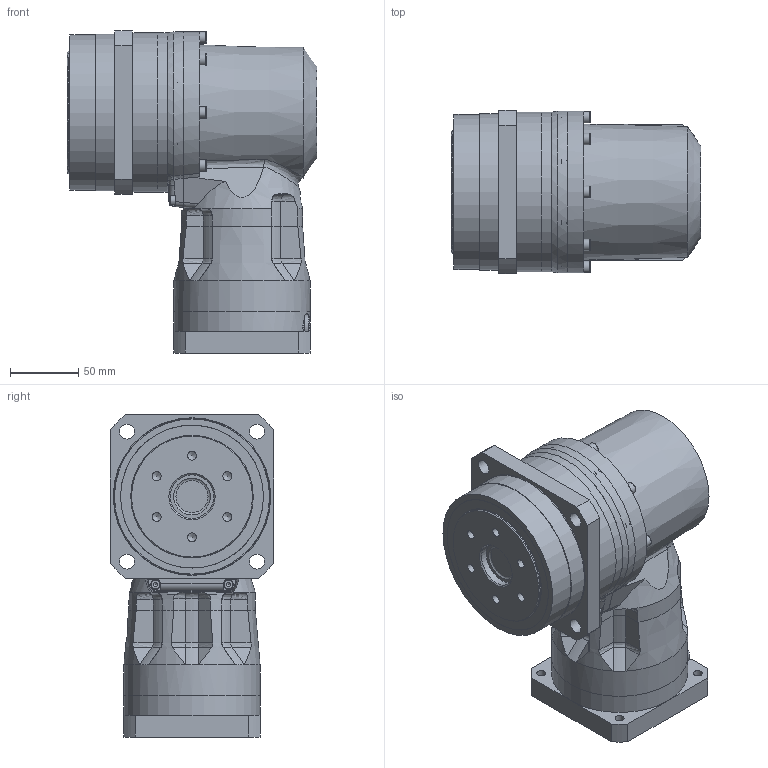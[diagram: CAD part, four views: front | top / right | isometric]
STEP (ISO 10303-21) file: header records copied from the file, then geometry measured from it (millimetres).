
FILE_DESCRIPTION(/* description */ ('ANFX-PK130F-3-M35G'),/* implementation_level */ '2;1');
FILE_NAME(/* name */ 'C:\Users\ADMINI~1\AppData\Local\Temp\MM582461_ANFX-PK130F-3-M35G.stp',/* time_stamp */ '2018-07-11T08:27:11+02:00',/* author */ ('Max'),/* organization */ (''),/* preprocessor_version */ 'ST-DEVELOPER v17',/* originating_system */ 'Autodesk Inventor 2018',/* authorisation */ '');
FILE_SCHEMA (('AUTOMOTIVE_DESIGN { 1 0 10303 214 3 1 1 }'));
Length unit declared in the file: millimetre
Products named in the file (24): MM581710; MMBG0004105; MMCM057LG; MMAF787LG; 5006008RS---G; MMAP6504G; 009M005R014NG; M530A406212--G; 211458; M214303; 200458; MMBG0004078; MMCL445LG; MMCM226LG; MAX4841G; MAW8388G; MMBG0004117; MMAF790LG; MMAP3262G; M009M004R022NG; 213890; 134811; MAW8794G; 204174
Assembly tree (52 placements, depth 3):
  MM581710
    MMBG0004105
      MMCM057LG
      MMAF787LG
      5006008RS---G
      MMAP6504G
      009M005R014NG
      M530A406212--G
      211458  x2
      M214303  x8
      200458  x7
    MMBG0004078
      MMCL445LG
      MMCM226LG
      MAX4841G
      MAW8388G
    MMBG0004117
      MMAF790LG
      MMAP3262G
      M009M004R022NG  x8
      213890  x2
    134811
    MAW8794G
    204174  x8
Bounding box: 183.5 x 120 x 236.7 mm (x, y, z)
Volume: 1512551.1 mm3; surface area: 431429.6 mm2
Topology: 108 solids, 109 shells, 1198 faces, 3328 edges, 2326 vertices
Faces by surface type: plane 560, cylinder 315, cone 135, torus 69, bspline 61, sphere 58
Full cylindrical faces by diameter (mm): 3.242 x12, 4 x11, 4.134 x16, 4.5 x18, 4.917 x8, 5 x16, 5.5 x16, 6 x8, 6.6 x8, 6.647 x10, 7 x10, 8 x8, 8.5 x16, 8.566 x2, 10 x8, 11 x12, 15 x3, 15.2 x1, 15.6 x1, 18 x1, 20.5 x1, 28 x1, 32 x1, 35 x1, 37 x1, 38 x1, 39.4 x1, 39.6 x1, 40 x2, 42 x1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
Entity records: 28493 total; most frequent: CARTESIAN_POINT 6529, DIRECTION 4688, ORIENTED_EDGE 4142, EDGE_CURVE 2071, AXIS2_PLACEMENT_3D 1988, VERTEX_POINT 1551, CIRCLE 1140, EDGE_LOOP 1038
